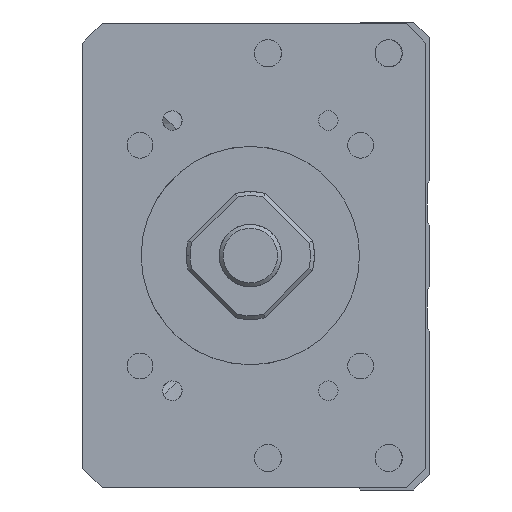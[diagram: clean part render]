
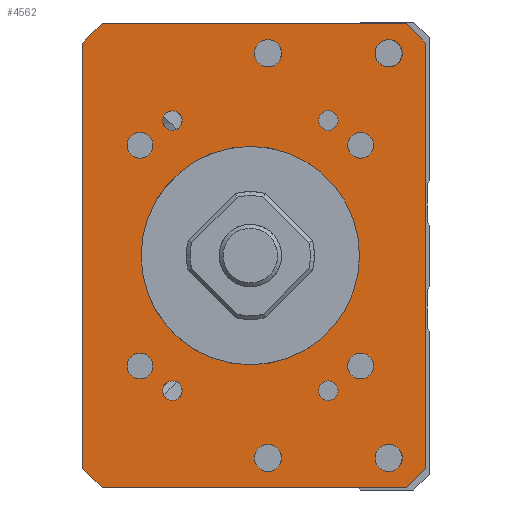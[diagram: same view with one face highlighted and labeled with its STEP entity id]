
A CAD part, left-side view. The second image highlights one B-rep face of the part: STEP entity #4562.
In plain terms, the highlighted planar face has unit normal (-1, 0, 0).
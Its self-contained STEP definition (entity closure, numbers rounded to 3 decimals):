
#3697=FACE_BOUND('',#5976,.T.);
#3698=FACE_BOUND('',#5977,.T.);
#3699=FACE_BOUND('',#5978,.T.);
#3700=FACE_BOUND('',#5979,.T.);
#3701=FACE_BOUND('',#5980,.T.);
#3702=FACE_BOUND('',#5981,.T.);
#3703=FACE_BOUND('',#5982,.T.);
#3704=FACE_BOUND('',#5983,.T.);
#3705=FACE_BOUND('',#5984,.T.);
#3706=FACE_BOUND('',#5985,.T.);
#3707=FACE_BOUND('',#5986,.T.);
#3708=FACE_BOUND('',#5987,.T.);
#3709=FACE_BOUND('',#5988,.T.);
#3710=FACE_BOUND('',#5989,.T.);
#4063=CIRCLE('',#13427,14.);
#4072=CIRCLE('',#13438,1.65);
#4073=CIRCLE('',#13439,1.65);
#4074=CIRCLE('',#13440,1.65);
#4075=CIRCLE('',#13441,1.65);
#4076=CIRCLE('',#13442,1.25);
#4077=CIRCLE('',#13443,1.75);
#4078=CIRCLE('',#13444,1.25);
#4079=CIRCLE('',#13445,1.75);
#4080=CIRCLE('',#13446,1.25);
#4081=CIRCLE('',#13447,1.75);
#4082=CIRCLE('',#13448,1.75);
#4083=CIRCLE('',#13449,1.25);
#4562=ADVANCED_FACE('',(#3697,#3698,#3699,#3700,#3701,#3702,#3703,#3704,
#3705,#3706,#3707,#3708,#3709,#3710),#5070,.F.);
#5070=PLANE('',#13450);
#5976=EDGE_LOOP('',(#7793));
#5977=EDGE_LOOP('',(#7794));
#5978=EDGE_LOOP('',(#7795));
#5979=EDGE_LOOP('',(#7796));
#5980=EDGE_LOOP('',(#7797));
#5981=EDGE_LOOP('',(#7798));
#5982=EDGE_LOOP('',(#7799));
#5983=EDGE_LOOP('',(#7800));
#5984=EDGE_LOOP('',(#7801));
#5985=EDGE_LOOP('',(#7802,#7803,#7804,#7805,#7806,#7807,#7808,#7809));
#5986=EDGE_LOOP('',(#7810));
#5987=EDGE_LOOP('',(#7811));
#5988=EDGE_LOOP('',(#7812));
#5989=EDGE_LOOP('',(#7813));
#7793=ORIENTED_EDGE('',*,*,#10729,.F.);
#7794=ORIENTED_EDGE('',*,*,#10730,.F.);
#7795=ORIENTED_EDGE('',*,*,#10731,.F.);
#7796=ORIENTED_EDGE('',*,*,#10732,.F.);
#7797=ORIENTED_EDGE('',*,*,#10733,.F.);
#7798=ORIENTED_EDGE('',*,*,#10734,.T.);
#7799=ORIENTED_EDGE('',*,*,#10735,.F.);
#7800=ORIENTED_EDGE('',*,*,#10736,.F.);
#7801=ORIENTED_EDGE('',*,*,#10737,.F.);
#7802=ORIENTED_EDGE('',*,*,#10726,.T.);
#7803=ORIENTED_EDGE('',*,*,#10738,.T.);
#7804=ORIENTED_EDGE('',*,*,#10739,.F.);
#7805=ORIENTED_EDGE('',*,*,#10740,.T.);
#7806=ORIENTED_EDGE('',*,*,#10741,.F.);
#7807=ORIENTED_EDGE('',*,*,#10742,.T.);
#7808=ORIENTED_EDGE('',*,*,#10743,.T.);
#7809=ORIENTED_EDGE('',*,*,#10744,.T.);
#7810=ORIENTED_EDGE('',*,*,#10745,.F.);
#7811=ORIENTED_EDGE('',*,*,#10746,.F.);
#7812=ORIENTED_EDGE('',*,*,#10747,.F.);
#7813=ORIENTED_EDGE('',*,*,#10706,.F.);
#9577=VERTEX_POINT('',#18345);
#9597=VERTEX_POINT('',#18405);
#9598=VERTEX_POINT('',#18407);
#9600=VERTEX_POINT('',#18413);
#9601=VERTEX_POINT('',#18415);
#9602=VERTEX_POINT('',#18417);
#9603=VERTEX_POINT('',#18419);
#9604=VERTEX_POINT('',#18421);
#9605=VERTEX_POINT('',#18423);
#9606=VERTEX_POINT('',#18425);
#9607=VERTEX_POINT('',#18427);
#9608=VERTEX_POINT('',#18429);
#9609=VERTEX_POINT('',#18431);
#9610=VERTEX_POINT('',#18433);
#9611=VERTEX_POINT('',#18435);
#9612=VERTEX_POINT('',#18437);
#9613=VERTEX_POINT('',#18439);
#9614=VERTEX_POINT('',#18441);
#9615=VERTEX_POINT('',#18444);
#9616=VERTEX_POINT('',#18446);
#9617=VERTEX_POINT('',#18448);
#10706=EDGE_CURVE('',#9577,#9577,#4063,.T.);
#10726=EDGE_CURVE('',#9598,#9597,#11886,.T.);
#10729=EDGE_CURVE('',#9600,#9600,#4072,.T.);
#10730=EDGE_CURVE('',#9601,#9601,#4073,.T.);
#10731=EDGE_CURVE('',#9602,#9602,#4074,.T.);
#10732=EDGE_CURVE('',#9603,#9603,#4075,.T.);
#10733=EDGE_CURVE('',#9604,#9604,#4076,.T.);
#10734=EDGE_CURVE('',#9605,#9605,#4077,.T.);
#10735=EDGE_CURVE('',#9606,#9606,#4078,.T.);
#10736=EDGE_CURVE('',#9607,#9607,#4079,.T.);
#10737=EDGE_CURVE('',#9608,#9608,#4080,.T.);
#10738=EDGE_CURVE('',#9597,#9609,#11888,.T.);
#10739=EDGE_CURVE('',#9610,#9609,#11889,.T.);
#10740=EDGE_CURVE('',#9610,#9611,#11890,.T.);
#10741=EDGE_CURVE('',#9612,#9611,#11891,.T.);
#10742=EDGE_CURVE('',#9612,#9613,#11892,.T.);
#10743=EDGE_CURVE('',#9613,#9614,#11893,.T.);
#10744=EDGE_CURVE('',#9614,#9598,#11894,.T.);
#10745=EDGE_CURVE('',#9615,#9615,#4081,.T.);
#10746=EDGE_CURVE('',#9616,#9616,#4082,.T.);
#10747=EDGE_CURVE('',#9617,#9617,#4083,.T.);
#11886=LINE('',#18406,#12703);
#11888=LINE('',#18430,#12705);
#11889=LINE('',#18432,#12706);
#11890=LINE('',#18434,#12707);
#11891=LINE('',#18436,#12708);
#11892=LINE('',#18438,#12709);
#11893=LINE('',#18440,#12710);
#11894=LINE('',#18442,#12711);
#12703=VECTOR('',#15284,1.);
#12705=VECTOR('',#15308,1.);
#12706=VECTOR('',#15309,1.);
#12707=VECTOR('',#15310,1.);
#12708=VECTOR('',#15311,1.);
#12709=VECTOR('',#15312,1.);
#12710=VECTOR('',#15313,1.);
#12711=VECTOR('',#15314,1.);
#13427=AXIS2_PLACEMENT_3D('',#18344,#15258,#15259);
#13438=AXIS2_PLACEMENT_3D('',#18412,#15290,#15291);
#13439=AXIS2_PLACEMENT_3D('',#18414,#15292,#15293);
#13440=AXIS2_PLACEMENT_3D('',#18416,#15294,#15295);
#13441=AXIS2_PLACEMENT_3D('',#18418,#15296,#15297);
#13442=AXIS2_PLACEMENT_3D('',#18420,#15298,#15299);
#13443=AXIS2_PLACEMENT_3D('',#18422,#15300,#15301);
#13444=AXIS2_PLACEMENT_3D('',#18424,#15302,#15303);
#13445=AXIS2_PLACEMENT_3D('',#18426,#15304,#15305);
#13446=AXIS2_PLACEMENT_3D('',#18428,#15306,#15307);
#13447=AXIS2_PLACEMENT_3D('',#18443,#15315,#15316);
#13448=AXIS2_PLACEMENT_3D('',#18445,#15317,#15318);
#13449=AXIS2_PLACEMENT_3D('',#18447,#15319,#15320);
#13450=AXIS2_PLACEMENT_3D('',#18449,#15321,#15322);
#15258=DIRECTION('',(-1.,0.,0.));
#15259=DIRECTION('',(0.,1.,0.));
#15284=DIRECTION('',(0.,0.,-1.));
#15290=DIRECTION('',(-1.,0.,0.));
#15291=DIRECTION('',(0.,0.,1.));
#15292=DIRECTION('',(-1.,0.,0.));
#15293=DIRECTION('',(0.,0.,1.));
#15294=DIRECTION('',(-1.,0.,0.));
#15295=DIRECTION('',(0.,0.,1.));
#15296=DIRECTION('',(-1.,0.,0.));
#15297=DIRECTION('',(0.,0.,1.));
#15298=DIRECTION('',(-1.,0.,0.));
#15299=DIRECTION('',(0.,1.,0.));
#15300=DIRECTION('',(1.,0.,0.));
#15301=DIRECTION('',(0.,0.,1.));
#15302=DIRECTION('',(-1.,0.,0.));
#15303=DIRECTION('',(0.,1.,0.));
#15304=DIRECTION('',(-1.,0.,0.));
#15305=DIRECTION('',(0.,0.,1.));
#15306=DIRECTION('',(-1.,0.,0.));
#15307=DIRECTION('',(0.,1.,0.));
#15308=DIRECTION('',(0.,-0.707,-0.707));
#15309=DIRECTION('',(0.,1.,0.));
#15310=DIRECTION('',(0.,-0.707,0.707));
#15311=DIRECTION('',(0.,0.,-1.));
#15312=DIRECTION('',(0.,0.707,0.707));
#15313=DIRECTION('',(0.,1.,0.));
#15314=DIRECTION('',(0.,0.707,-0.707));
#15315=DIRECTION('',(-1.,0.,0.));
#15316=DIRECTION('',(0.,0.,1.));
#15317=DIRECTION('',(-1.,0.,0.));
#15318=DIRECTION('',(0.,0.,1.));
#15319=DIRECTION('',(-1.,0.,0.));
#15320=DIRECTION('',(0.,1.,0.));
#15321=DIRECTION('',(1.,0.,0.));
#15322=DIRECTION('',(0.,1.,0.));
#18344=CARTESIAN_POINT('',(-211.,0.,-500.));
#18345=CARTESIAN_POINT('',(-211.,14.,-500.));
#18405=CARTESIAN_POINT('',(-211.,21.499,-527.25));
#18406=CARTESIAN_POINT('',(-211.,21.499,-470.25));
#18407=CARTESIAN_POINT('',(-211.,21.499,-472.75));
#18412=CARTESIAN_POINT('',(-211.,14.142,-485.858));
#18413=CARTESIAN_POINT('',(-211.,14.142,-484.208));
#18414=CARTESIAN_POINT('',(-211.,-14.142,-485.858));
#18415=CARTESIAN_POINT('',(-211.,-14.142,-484.208));
#18416=CARTESIAN_POINT('',(-211.,14.142,-514.142));
#18417=CARTESIAN_POINT('',(-211.,14.142,-512.492));
#18418=CARTESIAN_POINT('',(-211.,-14.142,-514.142));
#18419=CARTESIAN_POINT('',(-211.,-14.142,-512.492));
#18420=CARTESIAN_POINT('',(-211.,-10.,-517.321));
#18421=CARTESIAN_POINT('',(-211.,-8.75,-517.321));
#18422=CARTESIAN_POINT('',(-211.,-2.25,-525.936));
#18423=CARTESIAN_POINT('',(-211.,-2.25,-524.186));
#18424=CARTESIAN_POINT('',(-211.,10.,-482.679));
#18425=CARTESIAN_POINT('',(-211.,11.25,-482.679));
#18426=CARTESIAN_POINT('',(-211.,-2.25,-474.064));
#18427=CARTESIAN_POINT('',(-211.,-2.25,-472.314));
#18428=CARTESIAN_POINT('',(-211.,10.,-517.321));
#18429=CARTESIAN_POINT('',(-211.,11.25,-517.321));
#18430=CARTESIAN_POINT('',(-211.,18.999,-529.75));
#18431=CARTESIAN_POINT('',(-211.,18.999,-529.75));
#18432=CARTESIAN_POINT('',(-211.,-22.501,-529.75));
#18433=CARTESIAN_POINT('',(-211.,-20.001,-529.75));
#18434=CARTESIAN_POINT('',(-211.,-22.501,-527.25));
#18435=CARTESIAN_POINT('',(-211.,-22.501,-527.25));
#18436=CARTESIAN_POINT('',(-211.,-22.501,-470.25));
#18437=CARTESIAN_POINT('',(-211.,-22.501,-472.75));
#18438=CARTESIAN_POINT('',(-211.,-22.501,-472.75));
#18439=CARTESIAN_POINT('',(-211.,-20.001,-470.25));
#18440=CARTESIAN_POINT('',(-211.,-22.501,-470.25));
#18441=CARTESIAN_POINT('',(-211.,18.999,-470.25));
#18442=CARTESIAN_POINT('',(-211.,18.999,-470.25));
#18443=CARTESIAN_POINT('',(-211.,-17.75,-474.064));
#18444=CARTESIAN_POINT('',(-211.,-17.75,-472.314));
#18445=CARTESIAN_POINT('',(-211.,-17.75,-525.936));
#18446=CARTESIAN_POINT('',(-211.,-17.75,-524.186));
#18447=CARTESIAN_POINT('',(-211.,-10.,-482.679));
#18448=CARTESIAN_POINT('',(-211.,-8.75,-482.679));
#18449=CARTESIAN_POINT('',(-211.,-22.501,-470.25));
